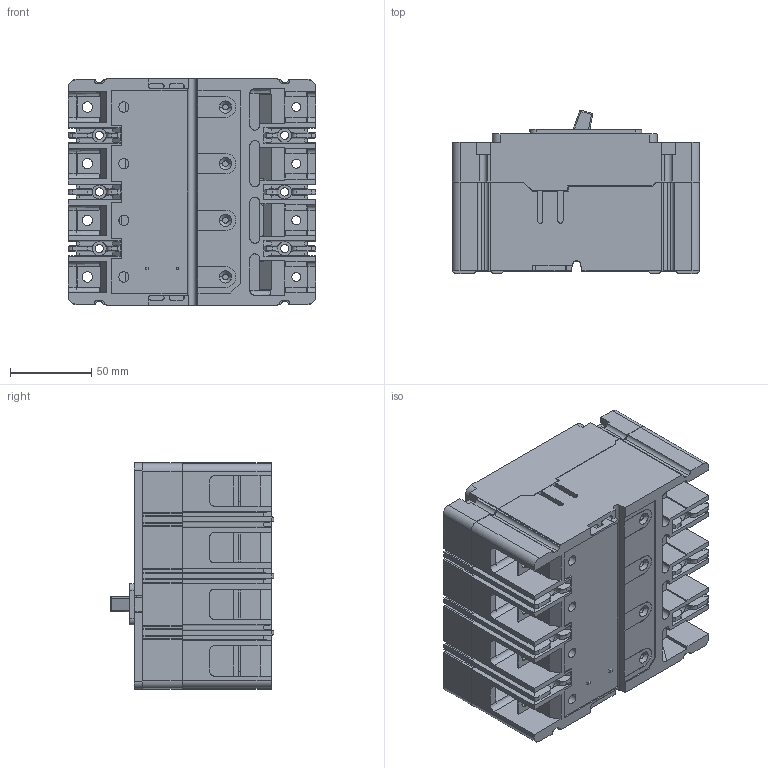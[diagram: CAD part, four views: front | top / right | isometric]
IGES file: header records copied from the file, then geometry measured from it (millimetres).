
Start section:  PTC IGES file: /data/CUSTOMERS/EATON/Eaton-Penn/translation-050503/iges /fd_4p_shrinkwrap.igs
Global section: file name: /data/CUSTOMERS/EATON/Eaton-Penn/translation-050503/iges/fd_4p_shrinkwrap.igs; native system: Pro/ENGINEER by Parametric Technology Corporation; preprocessor: 2001150; author: hopkin_m; organization: Unknown; date: 030508.134503; units: inch
Bounding box: 152.4 x 100.78 x 139.73 mm (x, y, z)
Surface area: 228167 mm2 (no closed solid volume)
Topology: 0 solids, 0 shells, 1032 faces, 5932 edges, 5930 vertices
Faces by surface type: bspline 665, revolution 367
